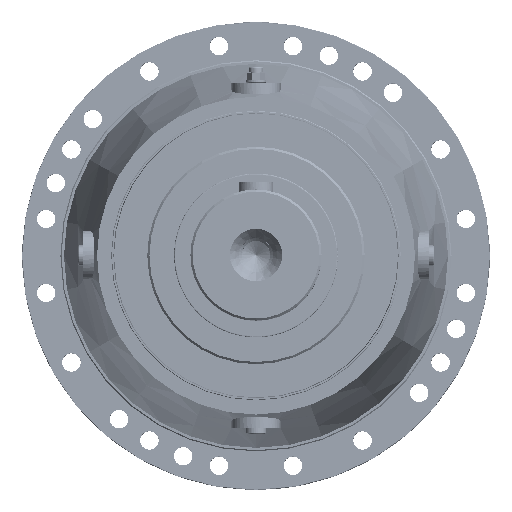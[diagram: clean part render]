
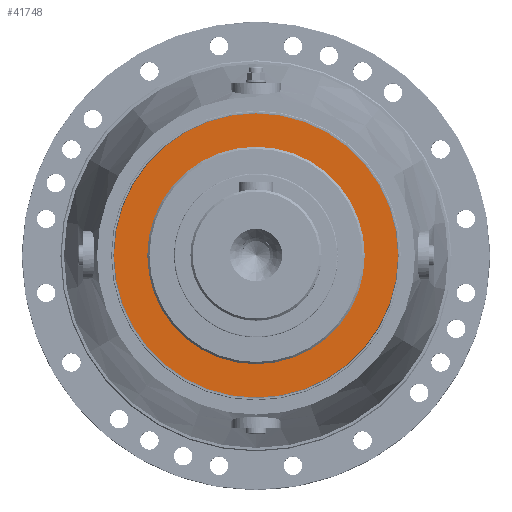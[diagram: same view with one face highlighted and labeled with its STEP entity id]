
A CAD part, top view. The second image highlights one B-rep face of the part: STEP entity #41748.
In plain terms, the highlighted planar face has unit normal (0, 0, 1).
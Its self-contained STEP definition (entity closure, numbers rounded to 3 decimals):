
#13337 = FACE_OUTER_BOUND ( 'NONE', #75691, .T. ) ;
#13366 = FACE_BOUND ( 'NONE', #75834, .T. ) ;
#41748 = ADVANCED_FACE ( 'NONE', ( #13366, #13337 ), #232217, .F. ) ;
#73456 = VERTEX_POINT ( 'NONE', #288300 ) ;
#73676 = VERTEX_POINT ( 'NONE', #288480 ) ;
#73749 = VERTEX_POINT ( 'NONE', #288600 ) ;
#73751 = VERTEX_POINT ( 'NONE', #288637 ) ;
#75691 = EDGE_LOOP ( 'NONE', ( #109199, #109202 ) ) ;
#75834 = EDGE_LOOP ( 'NONE', ( #109133, #109219 ) ) ;
#109133 = ORIENTED_EDGE ( 'NONE', *, *, #291507, .F. ) ;
#109199 = ORIENTED_EDGE ( 'NONE', *, *, #291604, .F. ) ;
#109202 = ORIENTED_EDGE ( 'NONE', *, *, #291350, .F. ) ;
#109219 = ORIENTED_EDGE ( 'NONE', *, *, #291436, .F. ) ;
#161766 = AXIS2_PLACEMENT_3D ( 'NONE', #232285, #232309, #232319 ) ;
#232217 = PLANE ( 'NONE',  #161766 ) ;
#232285 = CARTESIAN_POINT ( 'NONE',  ( 0., 130., 203. ) ) ;
#232309 = DIRECTION ( 'NONE',  ( 0., 0., -1. ) ) ;
#232319 = DIRECTION ( 'NONE',  ( 0., 1., 0. ) ) ;
#241048 = AXIS2_PLACEMENT_3D ( 'NONE', #285212, #285186, #285174 ) ;
#241066 = AXIS2_PLACEMENT_3D ( 'NONE', #285370, #285380, #285373 ) ;
#241070 = AXIS2_PLACEMENT_3D ( 'NONE', #285589, #285593, #285621 ) ;
#241091 = AXIS2_PLACEMENT_3D ( 'NONE', #284143, #284076, #284145 ) ;
#283135 = CIRCLE ( 'NONE', #241048, 130. ) ;
#283320 = CIRCLE ( 'NONE', #241066, 99.5 ) ;
#283376 = CIRCLE ( 'NONE', #241070, 99.5 ) ;
#283423 = CIRCLE ( 'NONE', #241091, 130. ) ;
#284076 = DIRECTION ( 'NONE',  ( 0., 0., -1. ) ) ;
#284143 = CARTESIAN_POINT ( 'NONE',  ( 0., 0., 203. ) ) ;
#284145 = DIRECTION ( 'NONE',  ( 0., 1., 0. ) ) ;
#285174 = DIRECTION ( 'NONE',  ( 0., 1., 0. ) ) ;
#285186 = DIRECTION ( 'NONE',  ( 0., 0., -1. ) ) ;
#285212 = CARTESIAN_POINT ( 'NONE',  ( 0., 0., 203. ) ) ;
#285370 = CARTESIAN_POINT ( 'NONE',  ( 0., 0., 203. ) ) ;
#285373 = DIRECTION ( 'NONE',  ( 0., 1., 0. ) ) ;
#285380 = DIRECTION ( 'NONE',  ( 0., 0., 1. ) ) ;
#285589 = CARTESIAN_POINT ( 'NONE',  ( 0., 0., 203. ) ) ;
#285593 = DIRECTION ( 'NONE',  ( 0., 0., 1. ) ) ;
#285621 = DIRECTION ( 'NONE',  ( 0., 1., 0. ) ) ;
#288300 = CARTESIAN_POINT ( 'NONE',  ( 0., 130., 203. ) ) ;
#288480 = CARTESIAN_POINT ( 'NONE',  ( 0., -99.5, 203. ) ) ;
#288600 = CARTESIAN_POINT ( 'NONE',  ( 0., 99.5, 203. ) ) ;
#288637 = CARTESIAN_POINT ( 'NONE',  ( 0., -130., 203. ) ) ;
#291350 = EDGE_CURVE ( 'NONE', #73751, #73456, #283135, .T. ) ;
#291436 = EDGE_CURVE ( 'NONE', #73676, #73749, #283320, .T. ) ;
#291507 = EDGE_CURVE ( 'NONE', #73749, #73676, #283376, .T. ) ;
#291604 = EDGE_CURVE ( 'NONE', #73456, #73751, #283423, .T. ) ;
